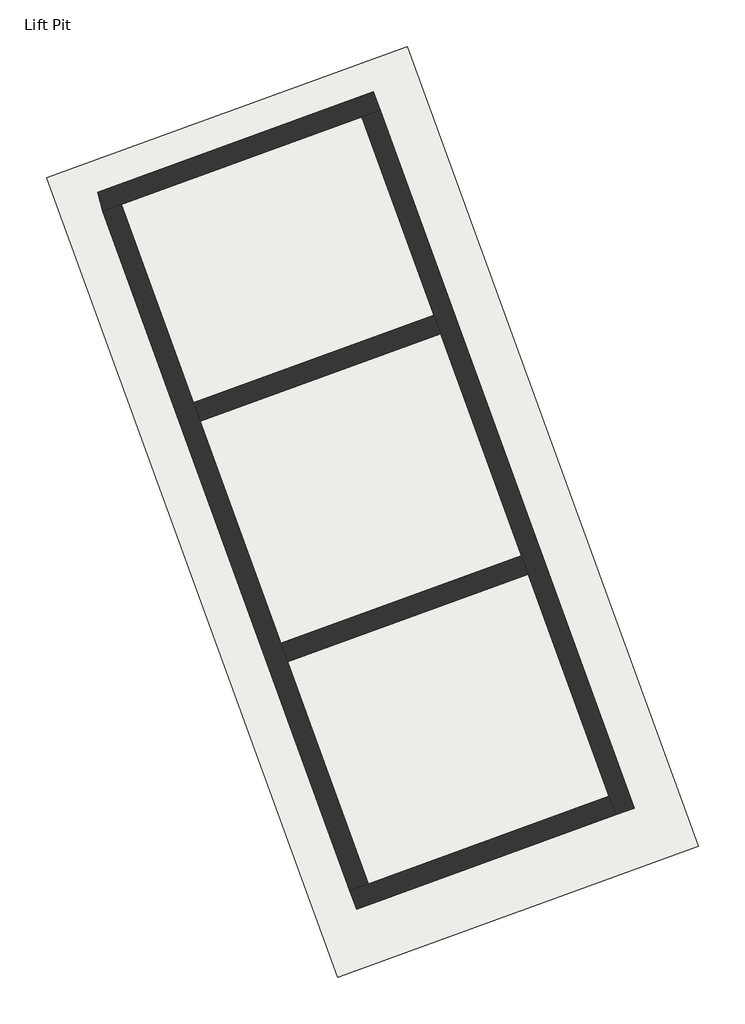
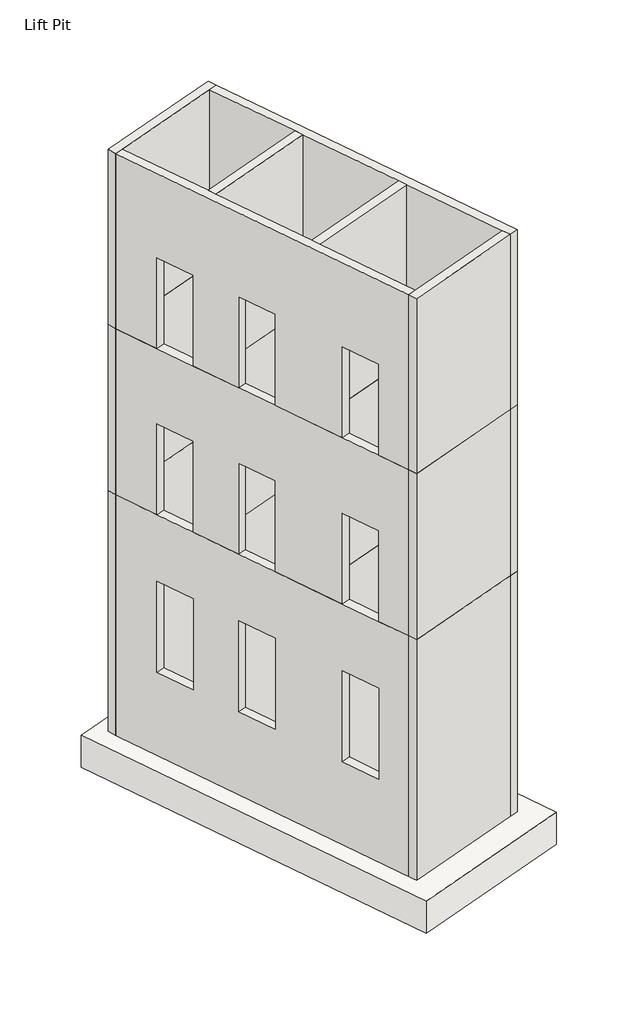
# One storey: 6 walls, 1 slab.
"""IFC4 building model written with IfcOpenShell, lengths in millimetres."""

from ifc_helpers import new_model, si_unit, frame, origin, place, context, project, spatial, polyline, outline, extrude, faceted_brep, element, save

model = new_model("IFC4")

# Units and contexts
model_context = context("Model", 3, world=origin())
ifc_project = project(units=[si_unit("LENGTHUNIT", "METRE", prefix="MILLI")], contexts=[model_context])

# Site, building, storey
site = spatial("IfcSite", under=ifc_project)
building = spatial("IfcBuilding", under=site)
storey = spatial("IfcBuildingStorey", under=building, Name="Lift Pit", Elevation=-1950.0)

# Slab
placement = place(None, origin())
element("IfcSlab", 1, ObjectType="RC SLAB 30\"", at=placement, inside=storey, context=model_context, shape_type="SweptSolid", body=[
    extrude(outline(polyline([(38299.7724557, 10272.5489477), (41257.1180287, 2147.3087635), (37592.3168076, 813.4302046), (34634.9712346, 8938.6703888), (38299.7724557, 10272.5489477)])), frame((0.0, 0.0, -2700.0), z_axis=(0.0, 0.0, 1.0), x_axis=(1.0, 0.0, 0.0)), (0.0, 0.0, 1.0), 750.0),
])

# Walls
element("IfcWall", 2, ObjectType="RC WALL 8\"", at=placement, inside=storey, context=model_context, shape_type="SolidModel", body=[
    faceted_brep([(38024.1761321, 9625.5613614, 7595.0), (35205.0982701, 8599.5009317, 7595.0), (35153.1367317, 8793.4240329, 7595.0), (37955.7721034, 9813.4998856, 7595.0), (38024.1761321, 9625.5613614, 11700.0), (37836.2376079, 9557.1573328, 11700.0), (35393.0367939, 8667.9049602, 11700.0), (35205.0982701, 8599.5009317, 11700.0), (37955.7721034, 9813.4998856, 11700.0), (35153.1367317, 8793.4240329, 11700.0)], [[[0, 1, 2, 3]], [[0, 4, 5, 6, 7, 1]], [[3, 8, 4, 0]], [[5, 4, 8, 9, 7, 6]], [[1, 7, 9, 2]], [[2, 9, 8, 3]]]),
    faceted_brep([(35205.0982701, 8599.5009317, 3695.0), (38024.1761321, 9625.5613614, 3695.0), (37955.7721034, 9813.4998856, 3695.0), (35153.1367317, 8793.4240329, 3695.0), (35205.0982701, 8599.5009317, -1950.0), (35393.0367939, 8667.9049602, -1950.0), (37836.2376079, 9557.1573328, -1950.0), (38024.1761321, 9625.5613614, -1950.0), (38024.1761321, 9625.5613614, -450.0), (35205.0982701, 8599.5009317, -450.0), (35153.1367317, 8793.4240329, -1950.0), (37955.7721034, 9813.4998856, -1950.0), (37955.7721034, 9813.4998856, -450.0), (35153.1367317, 8793.4240329, -450.0)], [[[0, 1, 2, 3]], [[4, 5, 6, 7, 8, 1, 0, 9]], [[5, 4, 10, 11, 7, 6]], [[8, 7, 11, 12, 2, 1]], [[4, 9, 0, 3, 13, 10]], [[10, 13, 3, 2, 12, 11]]]),
    extrude(outline(polyline([(38024.1761321, 9625.5613614), (35205.0982701, 8599.5009317), (35153.1367317, 8793.4240329), (37955.7721034, 9813.4998856), (38024.1761321, 9625.5613614)])), frame((0.0, 0.0, 3695.0), z_axis=(0.0, 0.0, 1.0), x_axis=(1.0, 0.0, 0.0)), (0.0, 0.0, 1.0), 3900.0),
])
element("IfcWall", 3, ObjectType="RC WALL 8\"", at=placement, inside=storey, context=model_context, shape_type="SolidModel", body=[
    faceted_brep([(40417.3610234, 2465.5790315, 7595.0), (37836.2376079, 9557.1573328, 7595.0), (38024.1761321, 9625.5613614, 7595.0), (40605.2995475, 2533.9830601, 7595.0), (40417.3610234, 2465.5790315, 11700.0), (40348.9569947, 2653.5175556, 11700.0), (39527.6685354, 4909.9890526, 11700.0), (39459.2645067, 5097.9275768, 11700.0), (38638.4161628, 7353.1898667, 11700.0), (38570.0121342, 7541.1283909, 11700.0), (37836.2376079, 9557.1573328, 11700.0), (40605.2995475, 2533.9830601, 11700.0), (38024.1761321, 9625.5613614, 11700.0)], [[[0, 1, 2, 3]], [[0, 4, 5, 6, 7, 8, 9, 10, 1]], [[4, 0, 3, 11]], [[5, 4, 11, 12, 10, 9, 8, 7, 6]], [[1, 10, 12, 2]], [[2, 12, 11, 3]]]),
    faceted_brep([(37836.2376079, 9557.1573328, 3695.0), (40417.3610234, 2465.5790315, 3695.0), (40605.2995475, 2533.9830601, 3695.0), (38024.1761321, 9625.5613614, 3695.0), (37836.2376079, 9557.1573328, -1950.0), (38570.0121342, 7541.1283909, -1950.0), (38638.4161628, 7353.1898667, -1950.0), (39459.2645067, 5097.9275768, -1950.0), (39527.6685354, 4909.9890526, -1950.0), (40348.9569947, 2653.5175556, -1950.0), (40417.3610234, 2465.5790315, -1950.0), (38024.1761321, 9625.5613614, -1950.0), (40605.2995475, 2533.9830601, -1950.0)], [[[0, 1, 2, 3]], [[4, 5, 6, 7, 8, 9, 10, 1, 0]], [[5, 4, 11, 12, 10, 9, 8, 7, 6]], [[1, 10, 12, 2]], [[4, 0, 3, 11]], [[11, 3, 2, 12]]]),
    extrude(outline(polyline([(40417.3610234, 2465.5790315), (37836.2376079, 9557.1573328), (38024.1761321, 9625.5613614), (40605.2995475, 2533.9830601), (40417.3610234, 2465.5790315)])), frame((0.0, 0.0, 3695.0), z_axis=(0.0, 0.0, 1.0), x_axis=(1.0, 0.0, 0.0)), (0.0, 0.0, 1.0), 3900.0),
])
element("IfcWall", 4, ObjectType="RC WALL 8\"", at=placement, inside=storey, context=model_context, shape_type="SolidModel", body=[
    faceted_brep([(37717.8176565, 1695.8611544, 7595.0), (40348.9569947, 2653.5175556, 7595.0), (40417.3610234, 2465.5790315, 7595.0), (37786.2216851, 1507.9226302, 7595.0), (37717.8176565, 1695.8611544, 11700.0), (37905.7561806, 1764.2651831, 11700.0), (40348.9569947, 2653.5175556, 11700.0), (37786.2216851, 1507.9226302, 11700.0), (40417.3610234, 2465.5790315, 11700.0)], [[[0, 1, 2, 3]], [[0, 4, 5, 6, 1]], [[4, 0, 3, 7]], [[5, 4, 7, 8, 6]], [[1, 6, 8, 2]], [[2, 8, 7, 3]]]),
    faceted_brep([(40348.9569947, 2653.5175556, 3695.0), (37717.8176565, 1695.8611544, 3695.0), (37786.2216851, 1507.9226302, 3695.0), (40417.3610234, 2465.5790315, 3695.0), (40348.9569947, 2653.5175556, -1950.0), (37905.7561806, 1764.2651831, -1950.0), (37717.8176565, 1695.8611544, -1950.0), (40417.3610234, 2465.5790315, -1950.0), (37786.2216851, 1507.9226302, -1950.0)], [[[0, 1, 2, 3]], [[4, 5, 6, 1, 0]], [[5, 4, 7, 8, 6]], [[1, 6, 8, 2]], [[4, 0, 3, 7]], [[7, 3, 2, 8]]]),
    extrude(outline(polyline([(37717.8176565, 1695.8611544), (40348.9569947, 2653.5175556), (40417.3610234, 2465.5790315), (37786.2216851, 1507.9226302), (37717.8176565, 1695.8611544)])), frame((0.0, 0.0, 3695.0), z_axis=(0.0, 0.0, 1.0), x_axis=(1.0, 0.0, 0.0)), (0.0, 0.0, 1.0), 3900.0),
])
element("IfcWall", 5, ObjectType="RC WALL 8\"", at=placement, inside=storey, context=model_context, shape_type="Brep", body=[
    faceted_brep([(37649.1065205, 2469.404329, 7595.0), (37905.7561806, 1764.2651831, 7595.0), (37717.8176565, 1695.8611544, 7595.0), (37461.1679963, 2401.0003004, 7595.0), (36059.0913318, 6837.935157, 7595.0), (36447.6262145, 5770.44434, 7595.0), (36259.6876903, 5702.0403113, 7595.0), (35871.1528076, 6769.5311283, 7595.0), (35393.0367939, 8667.9049602, 7595.0), (35746.4849208, 7696.8142124, 7595.0), (35558.5463966, 7628.4101837, 7595.0), (35205.0982697, 8599.5009315, 7595.0), (36760.2326255, 4911.5652846, 7595.0), (37336.5001095, 3328.2833844, 7595.0), (37148.5615854, 3259.8793558, 7595.0), (36572.2941013, 4843.1612559, 7595.0), (35393.0367939, 8667.9049602, 11700.0), (36126.8113201, 6651.8760183, 11700.0), (36195.2153487, 6463.9374941, 11700.0), (37016.0636927, 4208.6752042, 11700.0), (37084.4677213, 4020.73668, 11700.0), (37905.7561806, 1764.2651831, 11700.0), (37649.1065205, 2469.404329, 9729.0), (37336.5001095, 3328.2833844, 9729.0), (36760.2326255, 4911.5652846, 9729.0), (36447.6262145, 5770.44434, 9729.0), (36059.0913318, 6837.935157, 9729.0), (35746.4849208, 7696.8142124, 9729.0), (35205.0982697, 8599.5009315, 11700.0), (37717.8176565, 1695.8611544, 11700.0), (37461.1679963, 2401.0003004, 9729.0), (37148.5615854, 3259.8793558, 9729.0), (36572.2941013, 4843.1612559, 9729.0), (36259.6876903, 5702.0403113, 9729.0), (35871.1528076, 6769.5311283, 9729.0), (35558.5463966, 7628.4101837, 9729.0)], [[[0, 1, 2, 3]], [[4, 5, 6, 7]], [[8, 9, 10, 11]], [[12, 13, 14, 15]], [[8, 16, 17, 18, 19, 20, 21, 1, 0, 22, 23, 13, 12, 24, 25, 5, 4, 26, 27, 9]], [[11, 28, 16, 8]], [[17, 16, 28, 29, 21, 20, 19, 18]], [[1, 21, 29, 2]], [[23, 22, 30, 31]], [[13, 23, 31, 14]], [[22, 0, 3, 30]], [[25, 24, 32, 33]], [[5, 25, 33, 6]], [[24, 12, 15, 32]], [[27, 26, 34, 35]], [[9, 27, 35, 10]], [[26, 4, 7, 34]], [[2, 29, 28, 11, 10, 35, 34, 7, 6, 33, 32, 15, 14, 31, 30, 3]]]),
    faceted_brep([(37905.7561806, 1764.2651831, 3695.0), (37649.1065205, 2469.404329, 3695.0), (37336.5001095, 3328.2833844, 3695.0), (36760.2326255, 4911.5652846, 3695.0), (36447.6262145, 5770.44434, 3695.0), (36059.0913318, 6837.935157, 3695.0), (35746.4849208, 7696.8142124, 3695.0), (35393.0367939, 8667.9049602, 3695.0), (35205.0982697, 8599.5009315, 3695.0), (35558.5463966, 7628.4101837, 3695.0), (35871.1528076, 6769.5311283, 3695.0), (36259.6876903, 5702.0403113, 3695.0), (36572.2941013, 4843.1612559, 3695.0), (37148.5615854, 3259.8793558, 3695.0), (37461.1679963, 2401.0003004, 3695.0), (37717.8176565, 1695.8611544, 3695.0), (37905.7561806, 1764.2651831, -1950.0), (37084.4677213, 4020.73668, -1950.0), (37016.0636927, 4208.6752042, -1950.0), (36195.2153487, 6463.9374941, -1950.0), (36126.8113201, 6651.8760183, -1950.0), (35393.0367939, 8667.9049602, -1950.0), (35393.0367939, 8667.9049602, -450.0), (37905.7561806, 1764.2651831, -450.0), (36059.0913318, 6837.935157, 2134.0), (35746.4849208, 7696.8142124, 2134.0), (35746.4849208, 7696.8142124, 0.0), (36059.0913318, 6837.935157, 0.0), (36760.2326255, 4911.5652846, 2134.0), (36447.6262145, 5770.44434, 2134.0), (36447.6262145, 5770.44434, 0.0), (36760.2326255, 4911.5652846, 0.0), (37649.1065205, 2469.404329, 2134.0), (37336.5001095, 3328.2833844, 2134.0), (37336.5001095, 3328.2833844, 0.0), (37649.1065205, 2469.404329, 0.0), (35871.1528076, 6769.5311283, 2134.0), (35558.5463966, 7628.4101837, 2134.0), (35558.5463966, 7628.4101837, 0.0), (35871.1528076, 6769.5311283, 0.0), (36572.2941013, 4843.1612559, 2134.0), (36259.6876903, 5702.0403113, 2134.0), (36259.6876903, 5702.0403113, 0.0), (36572.2941013, 4843.1612559, 0.0), (37461.1679963, 2401.0003004, 2134.0), (37148.5615854, 3259.8793558, 2134.0), (37148.5615854, 3259.8793558, 0.0), (37461.1679963, 2401.0003004, 0.0), (37717.8176565, 1695.8611544, -1950.0), (35205.0982697, 8599.5009315, -1950.0), (35205.0982697, 8599.5009315, -450.0), (37717.8176565, 1695.8611544, -450.0)], [[[0, 1, 2, 3, 4, 5, 6, 7, 8, 9, 10, 11, 12, 13, 14, 15]], [[16, 17, 18, 19, 20, 21, 22, 7, 6, 5, 4, 3, 2, 1, 0, 23], [24, 25, 26, 27], [28, 29, 30, 31], [32, 33, 34, 35]], [[25, 24, 36, 37]], [[26, 25, 37, 38]], [[27, 26, 38, 39]], [[24, 27, 39, 36]], [[29, 28, 40, 41]], [[30, 29, 41, 42]], [[31, 30, 42, 43]], [[28, 31, 43, 40]], [[33, 32, 44, 45]], [[34, 33, 45, 46]], [[35, 34, 46, 47]], [[32, 35, 47, 44]], [[17, 16, 48, 49, 21, 20, 19, 18]], [[22, 21, 49, 50, 8, 7]], [[16, 23, 0, 15, 51, 48]], [[48, 51, 15, 14, 13, 12, 11, 10, 9, 8, 50, 49], [37, 36, 39, 38], [41, 40, 43, 42], [45, 44, 47, 46]]]),
    faceted_brep([(37905.7561806, 1764.2651831, 7595.0), (37649.1065205, 2469.404329, 7595.0), (37336.5001095, 3328.2833844, 7595.0), (36760.2326255, 4911.5652846, 7595.0), (36447.6262145, 5770.44434, 7595.0), (36059.0913318, 6837.935157, 7595.0), (35746.4849208, 7696.8142124, 7595.0), (35393.0367939, 8667.9049602, 7595.0), (35205.0982697, 8599.5009315, 7595.0), (35558.5463966, 7628.4101837, 7595.0), (35871.1528076, 6769.5311283, 7595.0), (36259.6876903, 5702.0403113, 7595.0), (36572.2941013, 4843.1612559, 7595.0), (37148.5615854, 3259.8793558, 7595.0), (37461.1679963, 2401.0003004, 7595.0), (37717.8176565, 1695.8611544, 7595.0), (37649.1065205, 2469.404329, 3695.0), (37905.7561806, 1764.2651831, 3695.0), (37717.8176565, 1695.8611544, 3695.0), (37461.1679963, 2401.0003004, 3695.0), (36760.2326255, 4911.5652846, 3695.0), (37336.5001095, 3328.2833844, 3695.0), (37148.5615854, 3259.8793558, 3695.0), (36572.2941013, 4843.1612559, 3695.0), (35393.0367939, 8667.9049602, 3695.0), (35746.4849208, 7696.8142124, 3695.0), (35558.5463966, 7628.4101837, 3695.0), (35205.0982697, 8599.5009315, 3695.0), (36059.0913318, 6837.935157, 3695.0), (36447.6262145, 5770.44434, 3695.0), (36259.6876903, 5702.0403113, 3695.0), (35871.1528076, 6769.5311283, 3695.0), (37649.1065205, 2469.404329, 5829.0), (37336.5001095, 3328.2833844, 5829.0), (36760.2326255, 4911.5652846, 5829.0), (36447.6262145, 5770.44434, 5829.0), (36059.0913318, 6837.935157, 5829.0), (35746.4849208, 7696.8142124, 5829.0), (35558.5463966, 7628.4101837, 5829.0), (35871.1528076, 6769.5311283, 5829.0), (36259.6876903, 5702.0403113, 5829.0), (36572.2941013, 4843.1612559, 5829.0), (37148.5615854, 3259.8793558, 5829.0), (37461.1679963, 2401.0003004, 5829.0)], [[[0, 1, 2, 3, 4, 5, 6, 7, 8, 9, 10, 11, 12, 13, 14, 15]], [[16, 17, 18, 19]], [[20, 21, 22, 23]], [[24, 25, 26, 27]], [[28, 29, 30, 31]], [[32, 33, 21, 20, 34, 35, 29, 28, 36, 37, 25, 24, 7, 6, 5, 4, 3, 2, 1, 0, 17, 16]], [[25, 37, 38, 26]], [[18, 15, 14, 13, 12, 11, 10, 9, 8, 27, 26, 38, 39, 31, 30, 40, 41, 23, 22, 42, 43, 19]], [[27, 8, 7, 24]], [[33, 32, 43, 42]], [[21, 33, 42, 22]], [[34, 20, 23, 41]], [[35, 34, 41, 40]], [[29, 35, 40, 30]], [[36, 28, 31, 39]], [[37, 36, 39, 38]], [[17, 0, 15, 18]], [[32, 16, 19, 43]]]),
])
element("IfcWall", 6, ObjectType="RC WALL 8\"", at=placement, inside=storey, context=model_context, shape_type="SweptSolid", body=[
    extrude(outline(polyline([(38638.4161628, 7353.1898667), (36195.2153487, 6463.9374941), (36126.8113201, 6651.8760183), (38570.0121342, 7541.1283909), (38638.4161628, 7353.1898667)])), frame((0.0, 0.0, 7595.0), z_axis=(0.0, 0.0, 1.0), x_axis=(1.0, 0.0, 0.0)), (0.0, 0.0, 1.0), 4105.0),
    extrude(outline(polyline([(38638.4161628, 7353.1898667), (36195.2153487, 6463.9374941), (36126.8113201, 6651.8760183), (38570.0121342, 7541.1283909), (38638.4161628, 7353.1898667)])), frame((0.0, 0.0, -1950.0), z_axis=(0.0, 0.0, 1.0), x_axis=(1.0, 0.0, 0.0)), (0.0, 0.0, 1.0), 5645.0),
    extrude(outline(polyline([(38638.4161628, 7353.1898667), (36195.2153487, 6463.9374941), (36126.8113201, 6651.8760183), (38570.0121342, 7541.1283909), (38638.4161628, 7353.1898667)])), frame((0.0, 0.0, 3695.0), z_axis=(0.0, 0.0, 1.0), x_axis=(1.0, 0.0, 0.0)), (0.0, 0.0, 1.0), 3900.0),
])
element("IfcWall", 7, ObjectType="RC WALL 8\"", at=placement, inside=storey, context=model_context, shape_type="SweptSolid", body=[
    extrude(outline(polyline([(39527.6685354, 4909.9890526), (37084.4677213, 4020.73668), (37016.0636927, 4208.6752042), (39459.2645067, 5097.9275768), (39527.6685354, 4909.9890526)])), frame((0.0, 0.0, 7595.0), z_axis=(0.0, 0.0, 1.0), x_axis=(1.0, 0.0, 0.0)), (0.0, 0.0, 1.0), 4105.0),
    extrude(outline(polyline([(39527.6685354, 4909.9890526), (37084.4677213, 4020.73668), (37016.0636927, 4208.6752042), (39459.2645067, 5097.9275768), (39527.6685354, 4909.9890526)])), frame((0.0, 0.0, -1950.0), z_axis=(0.0, 0.0, 1.0), x_axis=(1.0, 0.0, 0.0)), (0.0, 0.0, 1.0), 5645.0),
    extrude(outline(polyline([(39527.6685354, 4909.9890526), (37084.4677213, 4020.73668), (37016.0636927, 4208.6752042), (39459.2645067, 5097.9275768), (39527.6685354, 4909.9890526)])), frame((0.0, 0.0, 3695.0), z_axis=(0.0, 0.0, 1.0), x_axis=(1.0, 0.0, 0.0)), (0.0, 0.0, 1.0), 3900.0),
])

save(model, "model.ifc")
